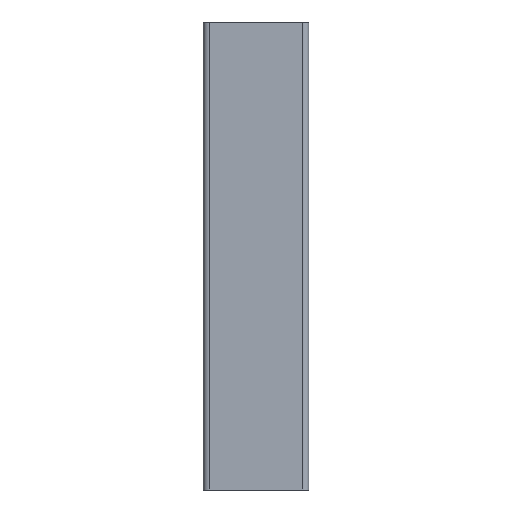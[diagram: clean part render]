
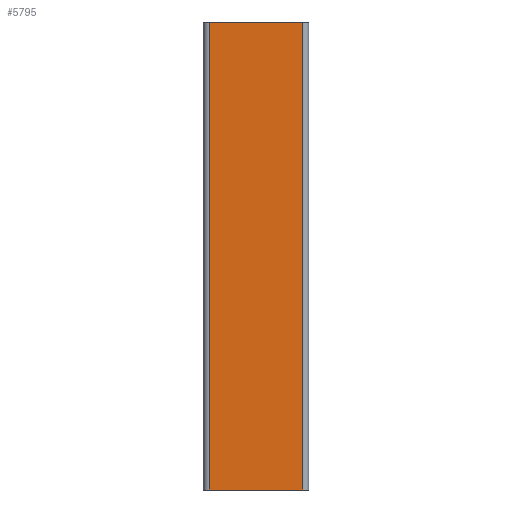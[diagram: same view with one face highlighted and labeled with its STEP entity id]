
A CAD part, left-side view. The second image highlights one B-rep face of the part: STEP entity #5795.
In plain terms, the highlighted planar face has unit normal (-1, 0, 0).
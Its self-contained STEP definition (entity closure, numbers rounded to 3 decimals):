
#47 = EDGE_CURVE ( 'NONE', #4250, #4469, #174, .T. ) ;
#84 = FACE_OUTER_BOUND ( 'NONE', #5558, .T. ) ;
#163 = VECTOR ( 'NONE', #2100, 1000. ) ;
#174 = LINE ( 'NONE', #2040, #163 ) ;
#416 = CARTESIAN_POINT ( 'NONE',  ( -45., -20., 200. ) ) ;
#1004 = PLANE ( 'NONE',  #1399 ) ;
#1078 = CARTESIAN_POINT ( 'NONE',  ( -45., 20., 200. ) ) ;
#1187 = DIRECTION ( 'NONE',  ( 1., 0., 0. ) ) ;
#1246 = DIRECTION ( 'NONE',  ( 0., 1., 0. ) ) ;
#1271 = ORIENTED_EDGE ( 'NONE', *, *, #47, .T. ) ;
#1295 = ORIENTED_EDGE ( 'NONE', *, *, #3826, .F. ) ;
#1342 = ORIENTED_EDGE ( 'NONE', *, *, #3638, .F. ) ;
#1372 = ORIENTED_EDGE ( 'NONE', *, *, #3795, .T. ) ;
#1399 = AXIS2_PLACEMENT_3D ( 'NONE', #1078, #1187, #1246 ) ;
#2040 = CARTESIAN_POINT ( 'NONE',  ( -45., 20., 0. ) ) ;
#2100 = DIRECTION ( 'NONE',  ( 0., -1., 0. ) ) ;
#2126 = CARTESIAN_POINT ( 'NONE',  ( -45., 20., 0. ) ) ;
#2174 = VERTEX_POINT ( 'NONE', #416 ) ;
#2299 = VERTEX_POINT ( 'NONE', #5452 ) ;
#2340 = CARTESIAN_POINT ( 'NONE',  ( -45., -20., 200. ) ) ;
#2374 = DIRECTION ( 'NONE',  ( 0., 0., -1. ) ) ;
#2525 = CARTESIAN_POINT ( 'NONE',  ( -45., 20., 200. ) ) ;
#2541 = DIRECTION ( 'NONE',  ( 0., 0., -1. ) ) ;
#3430 = DIRECTION ( 'NONE',  ( 0., -1., 0. ) ) ;
#3468 = CARTESIAN_POINT ( 'NONE',  ( -45., 20., 200. ) ) ;
#3638 = EDGE_CURVE ( 'NONE', #2299, #2174, #5781, .T. ) ;
#3795 = EDGE_CURVE ( 'NONE', #2299, #4250, #5411, .T. ) ;
#3826 = EDGE_CURVE ( 'NONE', #2174, #4469, #5381, .T. ) ;
#4250 = VERTEX_POINT ( 'NONE', #2126 ) ;
#4276 = CARTESIAN_POINT ( 'NONE',  ( -45., -20., 0. ) ) ;
#4469 = VERTEX_POINT ( 'NONE', #4276 ) ;
#5381 = LINE ( 'NONE', #2340, #5385 ) ;
#5385 = VECTOR ( 'NONE', #2374, 1000. ) ;
#5395 = VECTOR ( 'NONE', #2541, 1000. ) ;
#5411 = LINE ( 'NONE', #2525, #5395 ) ;
#5452 = CARTESIAN_POINT ( 'NONE',  ( -45., 20., 200. ) ) ;
#5558 = EDGE_LOOP ( 'NONE', ( #1271, #1295, #1342, #1372 ) ) ;
#5781 = LINE ( 'NONE', #3468, #5791 ) ;
#5791 = VECTOR ( 'NONE', #3430, 1000. ) ;
#5795 = ADVANCED_FACE ( 'NONE', ( #84 ), #1004, .F. ) ;
